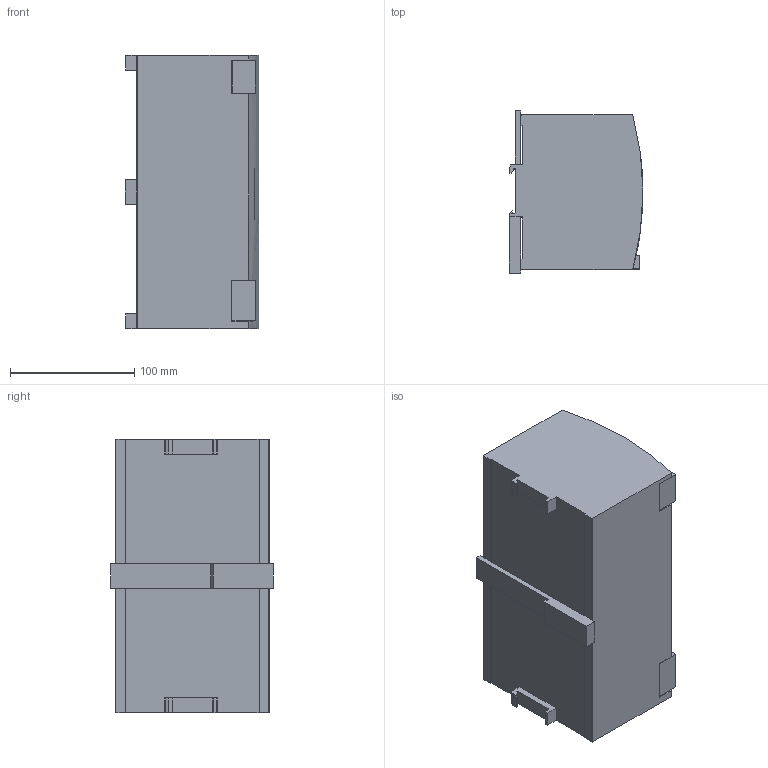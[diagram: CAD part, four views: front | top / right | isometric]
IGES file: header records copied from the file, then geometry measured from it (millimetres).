
Start section: SolidWorks IGES FILE using analytic representation for surfaces
Global section: file name: C:\Vertrieb\SL20_113\SL20_113.IGS; native system: SolidWorks 2004 by SolidWorks Corporation; preprocessor: Version 5.3; author: heinrij; date: 031016.104520; units: millimetre
Bounding box: 107.63 x 130.5 x 220 mm (x, y, z)
Surface area: 131669.6 mm2 (no closed solid volume)
Topology: 0 solids, 0 shells, 679 faces, 6151 edges, 6151 vertices
Faces by surface type: bspline 638, revolution 41
